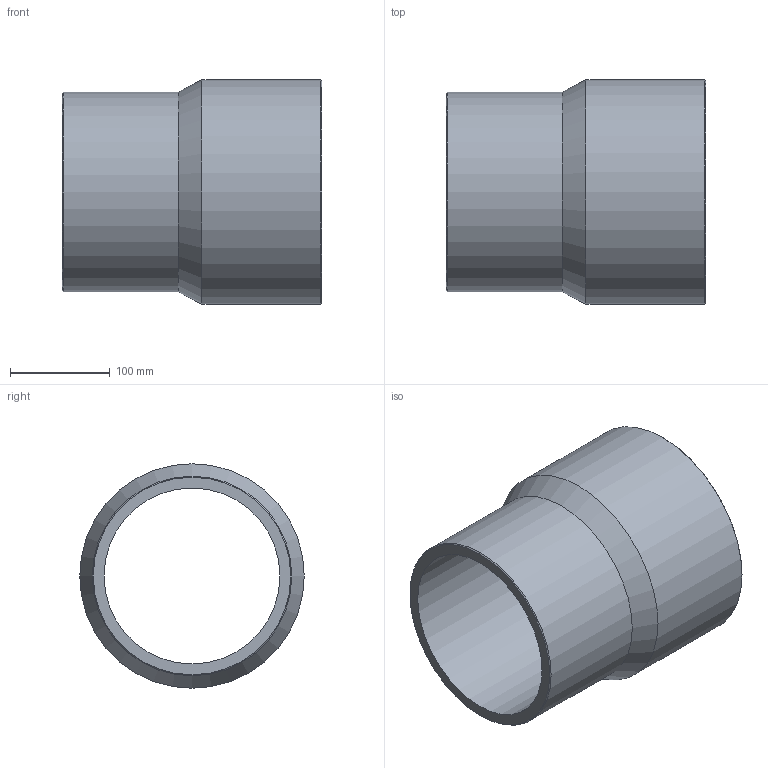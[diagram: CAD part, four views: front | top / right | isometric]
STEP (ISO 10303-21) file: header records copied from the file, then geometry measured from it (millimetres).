
FILE_DESCRIPTION(/* description */ ('Unknown'),/* implementation_level */ '2;1');
FILE_NAME(/* name */ 'RP225200B',/* time_stamp */ '2021-09-17T11:57:06+02:00',/* author */ ('Unknown'),/* organization */ ('Unknown'),/* preprocessor_version */ 'ST-DEVELOPER v16.7',/* originating_system */ 'Solid Edge',/* authorisation */ 'Unknown');
FILE_SCHEMA (('AUTOMOTIVE_DESIGN {1 0 10303 214 3 1 1}'));
Length unit declared in the file: millimetre
Products named in the file (1): RP225200B
Bounding box: 260 x 225 x 225 mm (x, y, z)
Volume: 2129755.4 mm3; surface area: 344853.9 mm2
Topology: 1 solids, 1 shells, 10 faces, 19 edges, 11 vertices
Faces by surface type: cylinder 4, cone 4, plane 2
Full cylindrical faces by diameter (mm): 176.2 x1, 198.2 x1, 200 x1, 225 x1
Entity records: 238 total; most frequent: DIRECTION 42, CARTESIAN_POINT 31, AXIS2_PLACEMENT_3D 21, ORIENTED_EDGE 20, EDGE_LOOP 20, FACE_BOUND 20, EDGE_CURVE 10, VERTEX_POINT 10
